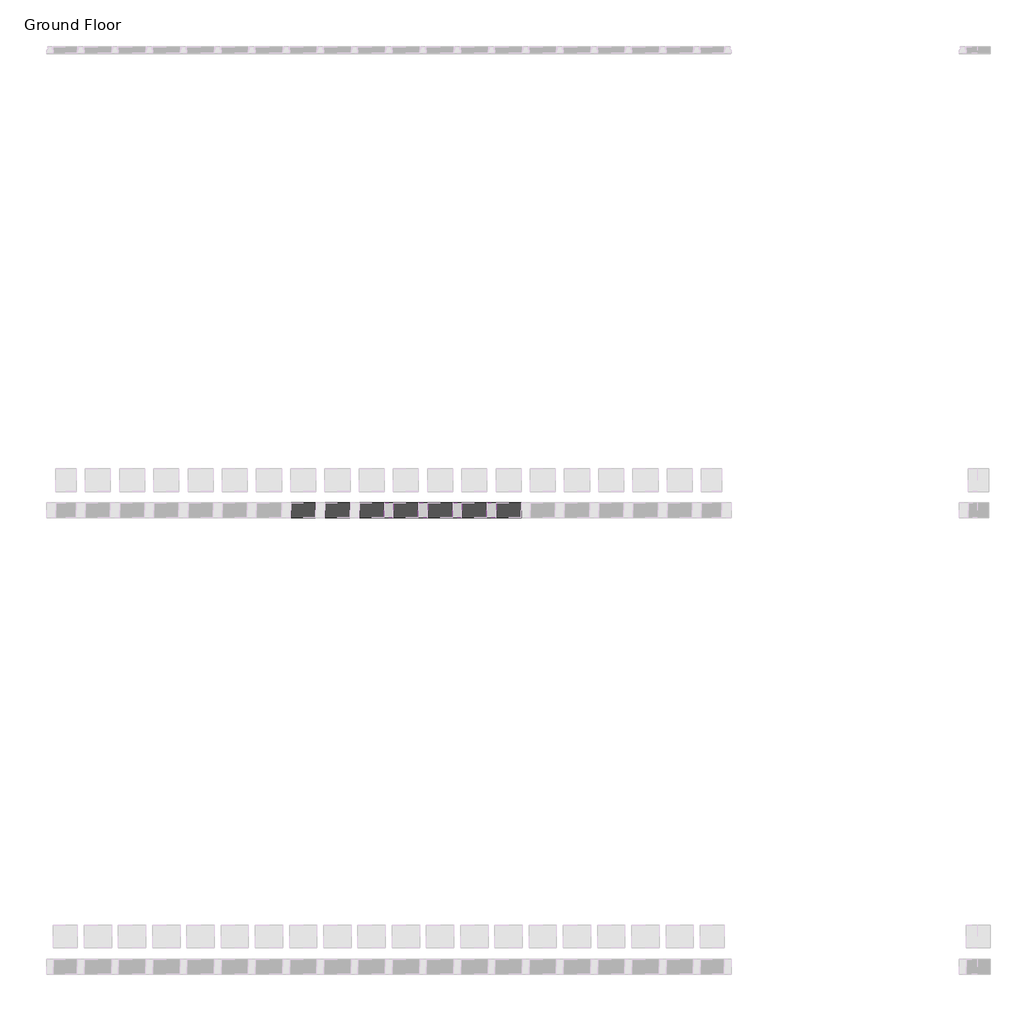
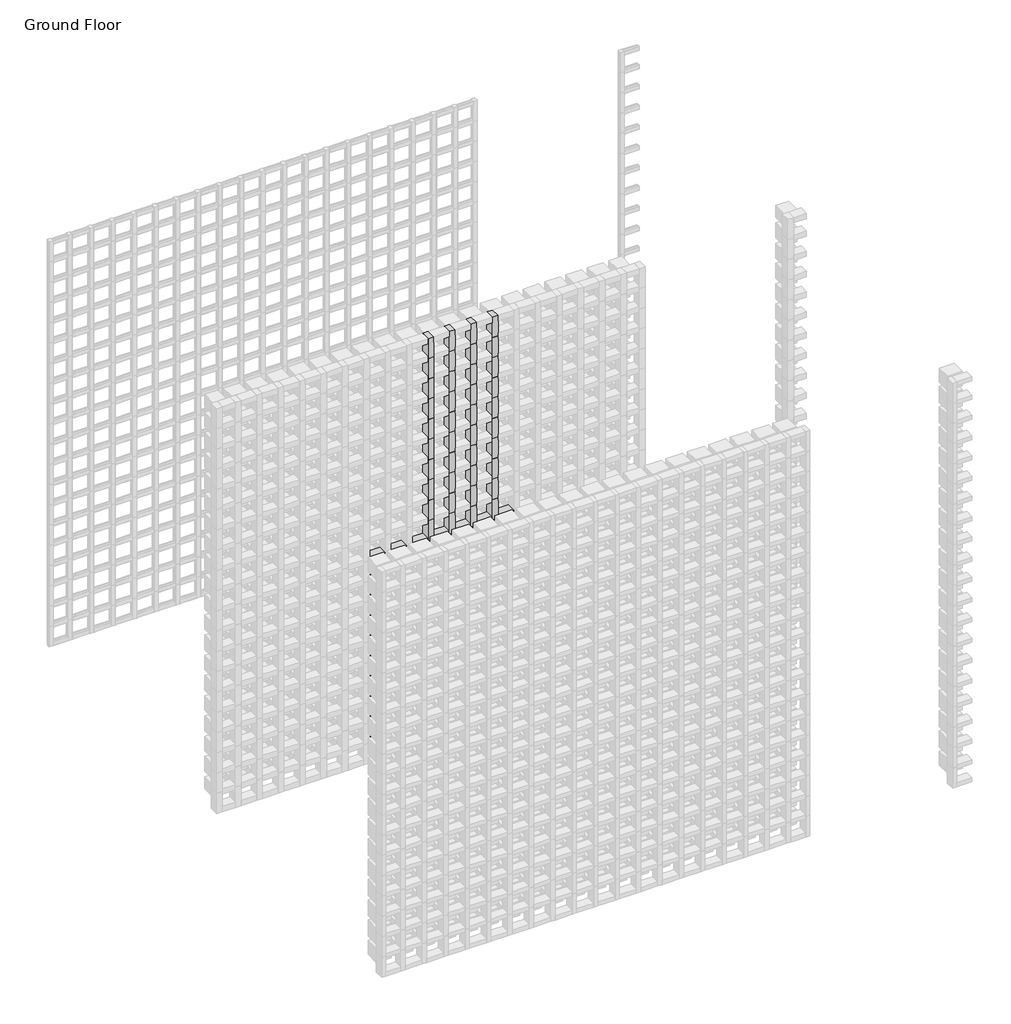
# One storey, part 84 of 350: 145 members.
"""IFC4 building model written with IfcOpenShell, lengths in millimetres."""

from ifc_helpers import new_model, si_unit, origin, place, context, project, spatial, transform, mapped, element, save
from components import rectangular_mullion_655930e9, rectangular_mullion_97e353d0

model = new_model("IFC4")

# Units and contexts
model_context = context("Model", 3, world=origin())
ifc_project = project(units=[si_unit("LENGTHUNIT", "METRE", prefix="MILLI")], contexts=[model_context])

# Site, building, storey
site = spatial("IfcSite", under=ifc_project)
building = spatial("IfcBuilding", under=site)
storey = spatial("IfcBuildingStorey", under=building, Name="Ground Floor", Elevation=0.0)

# Members
placement = place(None, origin())
rectangular_mullion_shape = rectangular_mullion_655930e9(model_context)
element("IfcMember", 1, ObjectType="Rectangular Mullion : Batten_Timber_Modinex_Austratus_Grid_Fascia_40x65_AlaskanYellowCedar", at=placement, inside=storey, context=model_context, shape_type="MappedRepresentation", body=[
    mapped(rectangular_mullion_shape, transform((3416.4361642, 40968.2978302, 300.0), x_axis=(1.0, 0.0, 0.0), y_axis=(0.0, -1.0, 0.0), z_axis=(0.0, 0.0, -1.0))),
])
element("IfcMember", 2, ObjectType="Rectangular Mullion : Batten_Timber_Modinex_Austratus_Grid_Fascia_40x65_AlaskanYellowCedar", at=placement, inside=storey, context=model_context, shape_type="MappedRepresentation", body=[
    mapped(rectangular_mullion_shape, transform((3416.4361642, 40968.2978302, 450.0), x_axis=(1.0, 0.0, 0.0), y_axis=(0.0, -1.0, 0.0), z_axis=(0.0, 0.0, -1.0))),
])
element("IfcMember", 3, ObjectType="Rectangular Mullion : Batten_Timber_Modinex_Austratus_Grid_Fascia_40x65_AlaskanYellowCedar", at=placement, inside=storey, context=model_context, shape_type="MappedRepresentation", body=[
    mapped(rectangular_mullion_shape, transform((3416.4361642, 40968.2978302, 600.0), x_axis=(1.0, 0.0, 0.0), y_axis=(0.0, -1.0, 0.0), z_axis=(0.0, 0.0, -1.0))),
])
element("IfcMember", 4, ObjectType="Rectangular Mullion : Batten_Timber_Modinex_Austratus_Grid_Fascia_40x65_AlaskanYellowCedar", at=placement, inside=storey, context=model_context, shape_type="MappedRepresentation", body=[
    mapped(rectangular_mullion_shape, transform((3416.4361642, 40968.2978302, 750.0), x_axis=(1.0, 0.0, 0.0), y_axis=(0.0, -1.0, 0.0), z_axis=(0.0, 0.0, -1.0))),
])
element("IfcMember", 5, ObjectType="Rectangular Mullion : Batten_Timber_Modinex_Austratus_Grid_Fascia_40x65_AlaskanYellowCedar", at=placement, inside=storey, context=model_context, shape_type="MappedRepresentation", body=[
    mapped(rectangular_mullion_shape, transform((3416.4361642, 40968.2978302, 900.0), x_axis=(1.0, 0.0, 0.0), y_axis=(0.0, -1.0, 0.0), z_axis=(0.0, 0.0, -1.0))),
])
element("IfcMember", 6, ObjectType="Rectangular Mullion : Batten_Timber_Modinex_Austratus_Grid_Fascia_40x65_AlaskanYellowCedar", at=placement, inside=storey, context=model_context, shape_type="MappedRepresentation", body=[
    mapped(rectangular_mullion_shape, transform((3416.4361642, 40968.2978302, 1050.0), x_axis=(1.0, 0.0, 0.0), y_axis=(0.0, -1.0, 0.0), z_axis=(0.0, 0.0, -1.0))),
])
element("IfcMember", 7, ObjectType="Rectangular Mullion : Batten_Timber_Modinex_Austratus_Grid_Fascia_40x65_AlaskanYellowCedar", at=placement, inside=storey, context=model_context, shape_type="MappedRepresentation", body=[
    mapped(rectangular_mullion_shape, transform((3416.4361642, 40968.2978302, 1200.0), x_axis=(1.0, 0.0, 0.0), y_axis=(0.0, -1.0, 0.0), z_axis=(0.0, 0.0, -1.0))),
])
element("IfcMember", 8, ObjectType="Rectangular Mullion : Batten_Timber_Modinex_Austratus_Grid_Fascia_40x65_AlaskanYellowCedar", at=placement, inside=storey, context=model_context, shape_type="MappedRepresentation", body=[
    mapped(rectangular_mullion_shape, transform((3416.4361642, 40968.2978302, 1350.0), x_axis=(1.0, 0.0, 0.0), y_axis=(0.0, -1.0, 0.0), z_axis=(0.0, 0.0, -1.0))),
])
element("IfcMember", 9, ObjectType="Rectangular Mullion : Batten_Timber_Modinex_Austratus_Grid_Fascia_40x65_AlaskanYellowCedar", at=placement, inside=storey, context=model_context, shape_type="MappedRepresentation", body=[
    mapped(rectangular_mullion_shape, transform((3416.4361642, 40968.2978302, 1500.0), x_axis=(1.0, 0.0, 0.0), y_axis=(0.0, -1.0, 0.0), z_axis=(0.0, 0.0, -1.0))),
])
element("IfcMember", 10, ObjectType="Rectangular Mullion : Batten_Timber_Modinex_Austratus_Grid_Fascia_40x65_AlaskanYellowCedar", at=placement, inside=storey, context=model_context, shape_type="MappedRepresentation", body=[
    mapped(rectangular_mullion_shape, transform((3416.4361642, 40968.2978302, 1650.0), x_axis=(1.0, 0.0, 0.0), y_axis=(0.0, -1.0, 0.0), z_axis=(0.0, 0.0, -1.0))),
])
element("IfcMember", 11, ObjectType="Rectangular Mullion : Batten_Timber_Modinex_Austratus_Grid_Fascia_40x65_AlaskanYellowCedar", at=placement, inside=storey, context=model_context, shape_type="MappedRepresentation", body=[
    mapped(rectangular_mullion_shape, transform((3416.4361642, 40968.2978302, 1800.0), x_axis=(1.0, 0.0, 0.0), y_axis=(0.0, -1.0, 0.0), z_axis=(0.0, 0.0, -1.0))),
])
element("IfcMember", 12, ObjectType="Rectangular Mullion : Batten_Timber_Modinex_Austratus_Grid_Fascia_40x65_AlaskanYellowCedar", at=placement, inside=storey, context=model_context, shape_type="MappedRepresentation", body=[
    mapped(rectangular_mullion_shape, transform((3416.4361642, 40968.2978302, 1950.0), x_axis=(1.0, 0.0, 0.0), y_axis=(0.0, -1.0, 0.0), z_axis=(0.0, 0.0, -1.0))),
])
element("IfcMember", 13, ObjectType="Rectangular Mullion : Batten_Timber_Modinex_Austratus_Grid_Fascia_40x65_AlaskanYellowCedar", at=placement, inside=storey, context=model_context, shape_type="MappedRepresentation", body=[
    mapped(rectangular_mullion_shape, transform((3416.4361642, 40968.2978302, 2100.0), x_axis=(1.0, 0.0, 0.0), y_axis=(0.0, -1.0, 0.0), z_axis=(0.0, 0.0, -1.0))),
])
element("IfcMember", 14, ObjectType="Rectangular Mullion : Batten_Timber_Modinex_Austratus_Grid_Fascia_40x65_AlaskanYellowCedar", at=placement, inside=storey, context=model_context, shape_type="MappedRepresentation", body=[
    mapped(rectangular_mullion_shape, transform((3416.4361642, 40968.2978302, 2250.0), x_axis=(1.0, 0.0, 0.0), y_axis=(0.0, -1.0, 0.0), z_axis=(0.0, 0.0, -1.0))),
])
element("IfcMember", 15, ObjectType="Rectangular Mullion : Batten_Timber_Modinex_Austratus_Grid_Fascia_40x65_AlaskanYellowCedar", at=placement, inside=storey, context=model_context, shape_type="MappedRepresentation", body=[
    mapped(rectangular_mullion_shape, transform((3416.4361642, 40968.2978302, 2400.0), x_axis=(1.0, 0.0, 0.0), y_axis=(0.0, -1.0, 0.0), z_axis=(0.0, 0.0, -1.0))),
])
element("IfcMember", 16, ObjectType="Rectangular Mullion : Batten_Timber_Modinex_Austratus_Grid_Fascia_40x65_AlaskanYellowCedar", at=placement, inside=storey, context=model_context, shape_type="MappedRepresentation", body=[
    mapped(rectangular_mullion_shape, transform((3416.4361642, 40968.2978302, 2550.0), x_axis=(1.0, 0.0, 0.0), y_axis=(0.0, -1.0, 0.0), z_axis=(0.0, 0.0, -1.0))),
])
element("IfcMember", 17, ObjectType="Rectangular Mullion : Batten_Timber_Modinex_Austratus_Grid_Fascia_40x65_AlaskanYellowCedar", at=placement, inside=storey, context=model_context, shape_type="MappedRepresentation", body=[
    mapped(rectangular_mullion_shape, transform((3416.4361642, 40968.2978302, 2700.0), x_axis=(1.0, 0.0, 0.0), y_axis=(0.0, -1.0, 0.0), z_axis=(0.0, 0.0, -1.0))),
])
element("IfcMember", 18, ObjectType="Rectangular Mullion : Batten_Timber_Modinex_Austratus_Grid_Fascia_40x65_AlaskanYellowCedar", at=placement, inside=storey, context=model_context, shape_type="MappedRepresentation", body=[
    mapped(rectangular_mullion_shape, transform((3566.4361642, 40968.2978302, 150.0), x_axis=(1.0, 0.0, 0.0), y_axis=(0.0, -1.0, 0.0), z_axis=(0.0, 0.0, -1.0))),
])
element("IfcMember", 19, ObjectType="Rectangular Mullion : Batten_Timber_Modinex_Austratus_Grid_Fascia_40x65_AlaskanYellowCedar", at=placement, inside=storey, context=model_context, shape_type="MappedRepresentation", body=[
    mapped(rectangular_mullion_shape, transform((3566.4361642, 40968.2978302, 300.0), x_axis=(1.0, 0.0, 0.0), y_axis=(0.0, -1.0, 0.0), z_axis=(0.0, 0.0, -1.0))),
])
element("IfcMember", 20, ObjectType="Rectangular Mullion : Batten_Timber_Modinex_Austratus_Grid_Fascia_40x65_AlaskanYellowCedar", at=placement, inside=storey, context=model_context, shape_type="MappedRepresentation", body=[
    mapped(rectangular_mullion_shape, transform((3566.4361642, 40968.2978302, 450.0), x_axis=(1.0, 0.0, 0.0), y_axis=(0.0, -1.0, 0.0), z_axis=(0.0, 0.0, -1.0))),
])
element("IfcMember", 21, ObjectType="Rectangular Mullion : Batten_Timber_Modinex_Austratus_Grid_Fascia_40x65_AlaskanYellowCedar", at=placement, inside=storey, context=model_context, shape_type="MappedRepresentation", body=[
    mapped(rectangular_mullion_shape, transform((3566.4361642, 40968.2978302, 600.0), x_axis=(1.0, 0.0, 0.0), y_axis=(0.0, -1.0, 0.0), z_axis=(0.0, 0.0, -1.0))),
])
element("IfcMember", 22, ObjectType="Rectangular Mullion : Batten_Timber_Modinex_Austratus_Grid_Fascia_40x65_AlaskanYellowCedar", at=placement, inside=storey, context=model_context, shape_type="MappedRepresentation", body=[
    mapped(rectangular_mullion_shape, transform((3566.4361642, 40968.2978302, 750.0), x_axis=(1.0, 0.0, 0.0), y_axis=(0.0, -1.0, 0.0), z_axis=(0.0, 0.0, -1.0))),
])
element("IfcMember", 23, ObjectType="Rectangular Mullion : Batten_Timber_Modinex_Austratus_Grid_Fascia_40x65_AlaskanYellowCedar", at=placement, inside=storey, context=model_context, shape_type="MappedRepresentation", body=[
    mapped(rectangular_mullion_shape, transform((3566.4361642, 40968.2978302, 900.0), x_axis=(1.0, 0.0, 0.0), y_axis=(0.0, -1.0, 0.0), z_axis=(0.0, 0.0, -1.0))),
])
element("IfcMember", 24, ObjectType="Rectangular Mullion : Batten_Timber_Modinex_Austratus_Grid_Fascia_40x65_AlaskanYellowCedar", at=placement, inside=storey, context=model_context, shape_type="MappedRepresentation", body=[
    mapped(rectangular_mullion_shape, transform((3566.4361642, 40968.2978302, 1050.0), x_axis=(1.0, 0.0, 0.0), y_axis=(0.0, -1.0, 0.0), z_axis=(0.0, 0.0, -1.0))),
])
element("IfcMember", 25, ObjectType="Rectangular Mullion : Batten_Timber_Modinex_Austratus_Grid_Fascia_40x65_AlaskanYellowCedar", at=placement, inside=storey, context=model_context, shape_type="MappedRepresentation", body=[
    mapped(rectangular_mullion_shape, transform((3566.4361642, 40968.2978302, 1200.0), x_axis=(1.0, 0.0, 0.0), y_axis=(0.0, -1.0, 0.0), z_axis=(0.0, 0.0, -1.0))),
])
element("IfcMember", 26, ObjectType="Rectangular Mullion : Batten_Timber_Modinex_Austratus_Grid_Fascia_40x65_AlaskanYellowCedar", at=placement, inside=storey, context=model_context, shape_type="MappedRepresentation", body=[
    mapped(rectangular_mullion_shape, transform((3566.4361642, 40968.2978302, 1350.0), x_axis=(1.0, 0.0, 0.0), y_axis=(0.0, -1.0, 0.0), z_axis=(0.0, 0.0, -1.0))),
])
element("IfcMember", 27, ObjectType="Rectangular Mullion : Batten_Timber_Modinex_Austratus_Grid_Fascia_40x65_AlaskanYellowCedar", at=placement, inside=storey, context=model_context, shape_type="MappedRepresentation", body=[
    mapped(rectangular_mullion_shape, transform((3566.4361642, 40968.2978302, 1500.0), x_axis=(1.0, 0.0, 0.0), y_axis=(0.0, -1.0, 0.0), z_axis=(0.0, 0.0, -1.0))),
])
element("IfcMember", 28, ObjectType="Rectangular Mullion : Batten_Timber_Modinex_Austratus_Grid_Fascia_40x65_AlaskanYellowCedar", at=placement, inside=storey, context=model_context, shape_type="MappedRepresentation", body=[
    mapped(rectangular_mullion_shape, transform((3566.4361642, 40968.2978302, 1650.0), x_axis=(1.0, 0.0, 0.0), y_axis=(0.0, -1.0, 0.0), z_axis=(0.0, 0.0, -1.0))),
])
element("IfcMember", 29, ObjectType="Rectangular Mullion : Batten_Timber_Modinex_Austratus_Grid_Fascia_40x65_AlaskanYellowCedar", at=placement, inside=storey, context=model_context, shape_type="MappedRepresentation", body=[
    mapped(rectangular_mullion_shape, transform((3566.4361642, 40968.2978302, 1800.0), x_axis=(1.0, 0.0, 0.0), y_axis=(0.0, -1.0, 0.0), z_axis=(0.0, 0.0, -1.0))),
])
element("IfcMember", 30, ObjectType="Rectangular Mullion : Batten_Timber_Modinex_Austratus_Grid_Fascia_40x65_AlaskanYellowCedar", at=placement, inside=storey, context=model_context, shape_type="MappedRepresentation", body=[
    mapped(rectangular_mullion_shape, transform((3566.4361642, 40968.2978302, 1950.0), x_axis=(1.0, 0.0, 0.0), y_axis=(0.0, -1.0, 0.0), z_axis=(0.0, 0.0, -1.0))),
])
element("IfcMember", 31, ObjectType="Rectangular Mullion : Batten_Timber_Modinex_Austratus_Grid_Fascia_40x65_AlaskanYellowCedar", at=placement, inside=storey, context=model_context, shape_type="MappedRepresentation", body=[
    mapped(rectangular_mullion_shape, transform((3566.4361642, 40968.2978302, 2100.0), x_axis=(1.0, 0.0, 0.0), y_axis=(0.0, -1.0, 0.0), z_axis=(0.0, 0.0, -1.0))),
])
element("IfcMember", 32, ObjectType="Rectangular Mullion : Batten_Timber_Modinex_Austratus_Grid_Fascia_40x65_AlaskanYellowCedar", at=placement, inside=storey, context=model_context, shape_type="MappedRepresentation", body=[
    mapped(rectangular_mullion_shape, transform((3566.4361642, 40968.2978302, 2250.0), x_axis=(1.0, 0.0, 0.0), y_axis=(0.0, -1.0, 0.0), z_axis=(0.0, 0.0, -1.0))),
])
element("IfcMember", 33, ObjectType="Rectangular Mullion : Batten_Timber_Modinex_Austratus_Grid_Fascia_40x65_AlaskanYellowCedar", at=placement, inside=storey, context=model_context, shape_type="MappedRepresentation", body=[
    mapped(rectangular_mullion_shape, transform((3566.4361642, 40968.2978302, 2400.0), x_axis=(1.0, 0.0, 0.0), y_axis=(0.0, -1.0, 0.0), z_axis=(0.0, 0.0, -1.0))),
])
element("IfcMember", 34, ObjectType="Rectangular Mullion : Batten_Timber_Modinex_Austratus_Grid_Fascia_40x65_AlaskanYellowCedar", at=placement, inside=storey, context=model_context, shape_type="MappedRepresentation", body=[
    mapped(rectangular_mullion_shape, transform((3566.4361642, 40968.2978302, 2550.0), x_axis=(1.0, 0.0, 0.0), y_axis=(0.0, -1.0, 0.0), z_axis=(0.0, 0.0, -1.0))),
])
element("IfcMember", 35, ObjectType="Rectangular Mullion : Batten_Timber_Modinex_Austratus_Grid_Fascia_40x65_AlaskanYellowCedar", at=placement, inside=storey, context=model_context, shape_type="MappedRepresentation", body=[
    mapped(rectangular_mullion_shape, transform((3566.4361642, 40968.2978302, 2700.0), x_axis=(1.0, 0.0, 0.0), y_axis=(0.0, -1.0, 0.0), z_axis=(0.0, 0.0, -1.0))),
])
element("IfcMember", 36, ObjectType="Rectangular Mullion : Batten_Timber_Modinex_Austratus_Grid_Fascia_40x65_AlaskanYellowCedar", at=placement, inside=storey, context=model_context, shape_type="MappedRepresentation", body=[
    mapped(rectangular_mullion_shape, transform((3716.4361642, 40968.2978302, 150.0), x_axis=(1.0, 0.0, 0.0), y_axis=(0.0, -1.0, 0.0), z_axis=(0.0, 0.0, -1.0))),
])
element("IfcMember", 37, ObjectType="Rectangular Mullion : Batten_Timber_Modinex_Austratus_Grid_Fascia_40x65_AlaskanYellowCedar", at=placement, inside=storey, context=model_context, shape_type="MappedRepresentation", body=[
    mapped(rectangular_mullion_shape, transform((3716.4361642, 40968.2978302, 300.0), x_axis=(1.0, 0.0, 0.0), y_axis=(0.0, -1.0, 0.0), z_axis=(0.0, 0.0, -1.0))),
])
element("IfcMember", 38, ObjectType="Rectangular Mullion : Batten_Timber_Modinex_Austratus_Grid_Fascia_40x65_AlaskanYellowCedar", at=placement, inside=storey, context=model_context, shape_type="MappedRepresentation", body=[
    mapped(rectangular_mullion_shape, transform((3716.4361642, 40968.2978302, 450.0), x_axis=(1.0, 0.0, 0.0), y_axis=(0.0, -1.0, 0.0), z_axis=(0.0, 0.0, -1.0))),
])
element("IfcMember", 39, ObjectType="Rectangular Mullion : Batten_Timber_Modinex_Austratus_Grid_Fascia_40x65_AlaskanYellowCedar", at=placement, inside=storey, context=model_context, shape_type="MappedRepresentation", body=[
    mapped(rectangular_mullion_shape, transform((3716.4361642, 40968.2978302, 600.0), x_axis=(1.0, 0.0, 0.0), y_axis=(0.0, -1.0, 0.0), z_axis=(0.0, 0.0, -1.0))),
])
element("IfcMember", 40, ObjectType="Rectangular Mullion : Batten_Timber_Modinex_Austratus_Grid_Fascia_40x65_AlaskanYellowCedar", at=placement, inside=storey, context=model_context, shape_type="MappedRepresentation", body=[
    mapped(rectangular_mullion_shape, transform((3716.4361642, 40968.2978302, 750.0), x_axis=(1.0, 0.0, 0.0), y_axis=(0.0, -1.0, 0.0), z_axis=(0.0, 0.0, -1.0))),
])
element("IfcMember", 41, ObjectType="Rectangular Mullion : Batten_Timber_Modinex_Austratus_Grid_Fascia_40x65_AlaskanYellowCedar", at=placement, inside=storey, context=model_context, shape_type="MappedRepresentation", body=[
    mapped(rectangular_mullion_shape, transform((3716.4361642, 40968.2978302, 900.0), x_axis=(1.0, 0.0, 0.0), y_axis=(0.0, -1.0, 0.0), z_axis=(0.0, 0.0, -1.0))),
])
element("IfcMember", 42, ObjectType="Rectangular Mullion : Batten_Timber_Modinex_Austratus_Grid_Fascia_40x65_AlaskanYellowCedar", at=placement, inside=storey, context=model_context, shape_type="MappedRepresentation", body=[
    mapped(rectangular_mullion_shape, transform((3716.4361642, 40968.2978302, 1050.0), x_axis=(1.0, 0.0, 0.0), y_axis=(0.0, -1.0, 0.0), z_axis=(0.0, 0.0, -1.0))),
])
element("IfcMember", 43, ObjectType="Rectangular Mullion : Batten_Timber_Modinex_Austratus_Grid_Fascia_40x65_AlaskanYellowCedar", at=placement, inside=storey, context=model_context, shape_type="MappedRepresentation", body=[
    mapped(rectangular_mullion_shape, transform((3716.4361642, 40968.2978302, 1200.0), x_axis=(1.0, 0.0, 0.0), y_axis=(0.0, -1.0, 0.0), z_axis=(0.0, 0.0, -1.0))),
])
element("IfcMember", 44, ObjectType="Rectangular Mullion : Batten_Timber_Modinex_Austratus_Grid_Fascia_40x65_AlaskanYellowCedar", at=placement, inside=storey, context=model_context, shape_type="MappedRepresentation", body=[
    mapped(rectangular_mullion_shape, transform((3716.4361642, 40968.2978302, 1350.0), x_axis=(1.0, 0.0, 0.0), y_axis=(0.0, -1.0, 0.0), z_axis=(0.0, 0.0, -1.0))),
])
element("IfcMember", 45, ObjectType="Rectangular Mullion : Batten_Timber_Modinex_Austratus_Grid_Fascia_40x65_AlaskanYellowCedar", at=placement, inside=storey, context=model_context, shape_type="MappedRepresentation", body=[
    mapped(rectangular_mullion_shape, transform((3716.4361642, 40968.2978302, 1500.0), x_axis=(1.0, 0.0, 0.0), y_axis=(0.0, -1.0, 0.0), z_axis=(0.0, 0.0, -1.0))),
])
element("IfcMember", 46, ObjectType="Rectangular Mullion : Batten_Timber_Modinex_Austratus_Grid_Fascia_40x65_AlaskanYellowCedar", at=placement, inside=storey, context=model_context, shape_type="MappedRepresentation", body=[
    mapped(rectangular_mullion_shape, transform((3716.4361642, 40968.2978302, 1650.0), x_axis=(1.0, 0.0, 0.0), y_axis=(0.0, -1.0, 0.0), z_axis=(0.0, 0.0, -1.0))),
])
element("IfcMember", 47, ObjectType="Rectangular Mullion : Batten_Timber_Modinex_Austratus_Grid_Fascia_40x65_AlaskanYellowCedar", at=placement, inside=storey, context=model_context, shape_type="MappedRepresentation", body=[
    mapped(rectangular_mullion_shape, transform((3716.4361642, 40968.2978302, 1800.0), x_axis=(1.0, 0.0, 0.0), y_axis=(0.0, -1.0, 0.0), z_axis=(0.0, 0.0, -1.0))),
])
element("IfcMember", 48, ObjectType="Rectangular Mullion : Batten_Timber_Modinex_Austratus_Grid_Fascia_40x65_AlaskanYellowCedar", at=placement, inside=storey, context=model_context, shape_type="MappedRepresentation", body=[
    mapped(rectangular_mullion_shape, transform((3716.4361642, 40968.2978302, 1950.0), x_axis=(1.0, 0.0, 0.0), y_axis=(0.0, -1.0, 0.0), z_axis=(0.0, 0.0, -1.0))),
])
element("IfcMember", 49, ObjectType="Rectangular Mullion : Batten_Timber_Modinex_Austratus_Grid_Fascia_40x65_AlaskanYellowCedar", at=placement, inside=storey, context=model_context, shape_type="MappedRepresentation", body=[
    mapped(rectangular_mullion_shape, transform((3716.4361642, 40968.2978302, 2100.0), x_axis=(1.0, 0.0, 0.0), y_axis=(0.0, -1.0, 0.0), z_axis=(0.0, 0.0, -1.0))),
])
element("IfcMember", 50, ObjectType="Rectangular Mullion : Batten_Timber_Modinex_Austratus_Grid_Fascia_40x65_AlaskanYellowCedar", at=placement, inside=storey, context=model_context, shape_type="MappedRepresentation", body=[
    mapped(rectangular_mullion_shape, transform((3716.4361642, 40968.2978302, 2250.0), x_axis=(1.0, 0.0, 0.0), y_axis=(0.0, -1.0, 0.0), z_axis=(0.0, 0.0, -1.0))),
])
element("IfcMember", 51, ObjectType="Rectangular Mullion : Batten_Timber_Modinex_Austratus_Grid_Fascia_40x65_AlaskanYellowCedar", at=placement, inside=storey, context=model_context, shape_type="MappedRepresentation", body=[
    mapped(rectangular_mullion_shape, transform((3716.4361642, 40968.2978302, 2400.0), x_axis=(1.0, 0.0, 0.0), y_axis=(0.0, -1.0, 0.0), z_axis=(0.0, 0.0, -1.0))),
])
element("IfcMember", 52, ObjectType="Rectangular Mullion : Batten_Timber_Modinex_Austratus_Grid_Fascia_40x65_AlaskanYellowCedar", at=placement, inside=storey, context=model_context, shape_type="MappedRepresentation", body=[
    mapped(rectangular_mullion_shape, transform((3716.4361642, 40968.2978302, 2550.0), x_axis=(1.0, 0.0, 0.0), y_axis=(0.0, -1.0, 0.0), z_axis=(0.0, 0.0, -1.0))),
])
element("IfcMember", 53, ObjectType="Rectangular Mullion : Batten_Timber_Modinex_Austratus_Grid_Fascia_40x65_AlaskanYellowCedar", at=placement, inside=storey, context=model_context, shape_type="MappedRepresentation", body=[
    mapped(rectangular_mullion_shape, transform((3716.4361642, 40968.2978302, 2700.0), x_axis=(1.0, 0.0, 0.0), y_axis=(0.0, -1.0, 0.0), z_axis=(0.0, 0.0, -1.0))),
])
element("IfcMember", 54, ObjectType="Rectangular Mullion : Batten_Timber_Modinex_Austratus_Grid_Fascia_40x65_AlaskanYellowCedar", at=placement, inside=storey, context=model_context, shape_type="MappedRepresentation", body=[
    mapped(rectangular_mullion_shape, transform((3866.4361642, 40968.2978302, 150.0), x_axis=(1.0, 0.0, 0.0), y_axis=(0.0, -1.0, 0.0), z_axis=(0.0, 0.0, -1.0))),
])
element("IfcMember", 55, ObjectType="Rectangular Mullion : Batten_Timber_Modinex_Austratus_Grid_Fascia_40x65_AlaskanYellowCedar", at=placement, inside=storey, context=model_context, shape_type="MappedRepresentation", body=[
    mapped(rectangular_mullion_shape, transform((3866.4361642, 40968.2978302, 300.0), x_axis=(1.0, 0.0, 0.0), y_axis=(0.0, -1.0, 0.0), z_axis=(0.0, 0.0, -1.0))),
])
element("IfcMember", 56, ObjectType="Rectangular Mullion : Batten_Timber_Modinex_Austratus_Grid_Fascia_40x65_AlaskanYellowCedar", at=placement, inside=storey, context=model_context, shape_type="MappedRepresentation", body=[
    mapped(rectangular_mullion_shape, transform((3866.4361642, 40968.2978302, 450.0), x_axis=(1.0, 0.0, 0.0), y_axis=(0.0, -1.0, 0.0), z_axis=(0.0, 0.0, -1.0))),
])
element("IfcMember", 57, ObjectType="Rectangular Mullion : Batten_Timber_Modinex_Austratus_Grid_Fascia_40x65_AlaskanYellowCedar", at=placement, inside=storey, context=model_context, shape_type="MappedRepresentation", body=[
    mapped(rectangular_mullion_shape, transform((3866.4361642, 40968.2978302, 600.0), x_axis=(1.0, 0.0, 0.0), y_axis=(0.0, -1.0, 0.0), z_axis=(0.0, 0.0, -1.0))),
])
element("IfcMember", 58, ObjectType="Rectangular Mullion : Batten_Timber_Modinex_Austratus_Grid_Fascia_40x65_AlaskanYellowCedar", at=placement, inside=storey, context=model_context, shape_type="MappedRepresentation", body=[
    mapped(rectangular_mullion_shape, transform((3866.4361642, 40968.2978302, 750.0), x_axis=(1.0, 0.0, 0.0), y_axis=(0.0, -1.0, 0.0), z_axis=(0.0, 0.0, -1.0))),
])
element("IfcMember", 59, ObjectType="Rectangular Mullion : Batten_Timber_Modinex_Austratus_Grid_Fascia_40x65_AlaskanYellowCedar", at=placement, inside=storey, context=model_context, shape_type="MappedRepresentation", body=[
    mapped(rectangular_mullion_shape, transform((3866.4361642, 40968.2978302, 900.0), x_axis=(1.0, 0.0, 0.0), y_axis=(0.0, -1.0, 0.0), z_axis=(0.0, 0.0, -1.0))),
])
element("IfcMember", 60, ObjectType="Rectangular Mullion : Batten_Timber_Modinex_Austratus_Grid_Fascia_40x65_AlaskanYellowCedar", at=placement, inside=storey, context=model_context, shape_type="MappedRepresentation", body=[
    mapped(rectangular_mullion_shape, transform((3866.4361642, 40968.2978302, 1050.0), x_axis=(1.0, 0.0, 0.0), y_axis=(0.0, -1.0, 0.0), z_axis=(0.0, 0.0, -1.0))),
])
element("IfcMember", 61, ObjectType="Rectangular Mullion : Batten_Timber_Modinex_Austratus_Grid_Fascia_40x65_AlaskanYellowCedar", at=placement, inside=storey, context=model_context, shape_type="MappedRepresentation", body=[
    mapped(rectangular_mullion_shape, transform((3866.4361642, 40968.2978302, 1200.0), x_axis=(1.0, 0.0, 0.0), y_axis=(0.0, -1.0, 0.0), z_axis=(0.0, 0.0, -1.0))),
])
element("IfcMember", 62, ObjectType="Rectangular Mullion : Batten_Timber_Modinex_Austratus_Grid_Fascia_40x65_AlaskanYellowCedar", at=placement, inside=storey, context=model_context, shape_type="MappedRepresentation", body=[
    mapped(rectangular_mullion_shape, transform((3866.4361642, 40968.2978302, 1350.0), x_axis=(1.0, 0.0, 0.0), y_axis=(0.0, -1.0, 0.0), z_axis=(0.0, 0.0, -1.0))),
])
element("IfcMember", 63, ObjectType="Rectangular Mullion : Batten_Timber_Modinex_Austratus_Grid_Fascia_40x65_AlaskanYellowCedar", at=placement, inside=storey, context=model_context, shape_type="MappedRepresentation", body=[
    mapped(rectangular_mullion_shape, transform((3866.4361642, 40968.2978302, 1500.0), x_axis=(1.0, 0.0, 0.0), y_axis=(0.0, -1.0, 0.0), z_axis=(0.0, 0.0, -1.0))),
])
element("IfcMember", 64, ObjectType="Rectangular Mullion : Batten_Timber_Modinex_Austratus_Grid_Fascia_40x65_AlaskanYellowCedar", at=placement, inside=storey, context=model_context, shape_type="MappedRepresentation", body=[
    mapped(rectangular_mullion_shape, transform((3866.4361642, 40968.2978302, 1650.0), x_axis=(1.0, 0.0, 0.0), y_axis=(0.0, -1.0, 0.0), z_axis=(0.0, 0.0, -1.0))),
])
element("IfcMember", 65, ObjectType="Rectangular Mullion : Batten_Timber_Modinex_Austratus_Grid_Fascia_40x65_AlaskanYellowCedar", at=placement, inside=storey, context=model_context, shape_type="MappedRepresentation", body=[
    mapped(rectangular_mullion_shape, transform((3866.4361642, 40968.2978302, 1800.0), x_axis=(1.0, 0.0, 0.0), y_axis=(0.0, -1.0, 0.0), z_axis=(0.0, 0.0, -1.0))),
])
element("IfcMember", 66, ObjectType="Rectangular Mullion : Batten_Timber_Modinex_Austratus_Grid_Fascia_40x65_AlaskanYellowCedar", at=placement, inside=storey, context=model_context, shape_type="MappedRepresentation", body=[
    mapped(rectangular_mullion_shape, transform((3866.4361642, 40968.2978302, 1950.0), x_axis=(1.0, 0.0, 0.0), y_axis=(0.0, -1.0, 0.0), z_axis=(0.0, 0.0, -1.0))),
])
element("IfcMember", 67, ObjectType="Rectangular Mullion : Batten_Timber_Modinex_Austratus_Grid_Fascia_40x65_AlaskanYellowCedar", at=placement, inside=storey, context=model_context, shape_type="MappedRepresentation", body=[
    mapped(rectangular_mullion_shape, transform((3866.4361642, 40968.2978302, 2100.0), x_axis=(1.0, 0.0, 0.0), y_axis=(0.0, -1.0, 0.0), z_axis=(0.0, 0.0, -1.0))),
])
element("IfcMember", 68, ObjectType="Rectangular Mullion : Batten_Timber_Modinex_Austratus_Grid_Fascia_40x65_AlaskanYellowCedar", at=placement, inside=storey, context=model_context, shape_type="MappedRepresentation", body=[
    mapped(rectangular_mullion_shape, transform((3866.4361642, 40968.2978302, 2250.0), x_axis=(1.0, 0.0, 0.0), y_axis=(0.0, -1.0, 0.0), z_axis=(0.0, 0.0, -1.0))),
])
element("IfcMember", 69, ObjectType="Rectangular Mullion : Batten_Timber_Modinex_Austratus_Grid_Fascia_40x65_AlaskanYellowCedar", at=placement, inside=storey, context=model_context, shape_type="MappedRepresentation", body=[
    mapped(rectangular_mullion_shape, transform((3866.4361642, 40968.2978302, 2400.0), x_axis=(1.0, 0.0, 0.0), y_axis=(0.0, -1.0, 0.0), z_axis=(0.0, 0.0, -1.0))),
])
element("IfcMember", 70, ObjectType="Rectangular Mullion : Batten_Timber_Modinex_Austratus_Grid_Fascia_40x65_AlaskanYellowCedar", at=placement, inside=storey, context=model_context, shape_type="MappedRepresentation", body=[
    mapped(rectangular_mullion_shape, transform((3866.4361642, 40968.2978302, 2550.0), x_axis=(1.0, 0.0, 0.0), y_axis=(0.0, -1.0, 0.0), z_axis=(0.0, 0.0, -1.0))),
])
element("IfcMember", 71, ObjectType="Rectangular Mullion : Batten_Timber_Modinex_Austratus_Grid_Fascia_40x65_AlaskanYellowCedar", at=placement, inside=storey, context=model_context, shape_type="MappedRepresentation", body=[
    mapped(rectangular_mullion_shape, transform((3866.4361642, 40968.2978302, 2700.0), x_axis=(1.0, 0.0, 0.0), y_axis=(0.0, -1.0, 0.0), z_axis=(0.0, 0.0, -1.0))),
])
element("IfcMember", 72, ObjectType="Rectangular Mullion : Batten_Timber_Modinex_Austratus_Grid_Fascia_40x65_AlaskanYellowCedar", at=placement, inside=storey, context=model_context, shape_type="MappedRepresentation", body=[
    mapped(rectangular_mullion_shape, transform((3416.4361642, 40968.2978302, 2850.0), x_axis=(1.0, 0.0, 0.0), y_axis=(0.0, -1.0, 0.0), z_axis=(0.0, 0.0, -1.0))),
])
element("IfcMember", 73, ObjectType="Rectangular Mullion : Batten_Timber_Modinex_Austratus_Grid_Fascia_40x65_AlaskanYellowCedar", at=placement, inside=storey, context=model_context, shape_type="MappedRepresentation", body=[
    mapped(rectangular_mullion_shape, transform((3566.4361642, 40968.2978302, 2850.0), x_axis=(1.0, 0.0, 0.0), y_axis=(0.0, -1.0, 0.0), z_axis=(0.0, 0.0, -1.0))),
])
element("IfcMember", 74, ObjectType="Rectangular Mullion : Batten_Timber_Modinex_Austratus_Grid_Fascia_40x65_AlaskanYellowCedar", at=placement, inside=storey, context=model_context, shape_type="MappedRepresentation", body=[
    mapped(rectangular_mullion_shape, transform((3716.4361642, 40968.2978302, 2850.0), x_axis=(1.0, 0.0, 0.0), y_axis=(0.0, -1.0, 0.0), z_axis=(0.0, 0.0, -1.0))),
])
element("IfcMember", 75, ObjectType="Rectangular Mullion : Batten_Timber_Modinex_Austratus_Grid_Fascia_40x65_AlaskanYellowCedar", at=placement, inside=storey, context=model_context, shape_type="MappedRepresentation", body=[
    mapped(rectangular_mullion_shape, transform((3866.4361642, 40968.2978302, 2850.0), x_axis=(1.0, 0.0, 0.0), y_axis=(0.0, -1.0, 0.0), z_axis=(0.0, 0.0, -1.0))),
])
rectangular_mullion_2_shape = rectangular_mullion_97e353d0(model_context)
element("IfcMember", 76, ObjectType="Rectangular Mullion : Batten_Timber_Modinex_Austratus_Grid_Fascia_40x65_AlaskanYellowCedar", at=placement, inside=storey, context=model_context, shape_type="MappedRepresentation", body=[
    mapped(rectangular_mullion_2_shape, transform((3096.4361642, 40968.2978302, 150.0), x_axis=(0.0, 0.0, 1.0), y_axis=(0.0, -1.0, 0.0), z_axis=(1.0, 0.0, 0.0))),
])
element("IfcMember", 77, ObjectType="Rectangular Mullion : Batten_Timber_Modinex_Austratus_Grid_Fascia_40x65_AlaskanYellowCedar", at=placement, inside=storey, context=model_context, shape_type="MappedRepresentation", body=[
    mapped(rectangular_mullion_2_shape, transform((3246.4361642, 40968.2978302, 150.0), x_axis=(0.0, 0.0, 1.0), y_axis=(0.0, -1.0, 0.0), z_axis=(1.0, 0.0, 0.0))),
])
element("IfcMember", 78, ObjectType="Rectangular Mullion : Batten_Timber_Modinex_Austratus_Grid_Fascia_40x65_AlaskanYellowCedar", at=placement, inside=storey, context=model_context, shape_type="MappedRepresentation", body=[
    mapped(rectangular_mullion_2_shape, transform((3396.4361642, 40968.2978302, 150.0), x_axis=(0.0, 0.0, 1.0), y_axis=(0.0, -1.0, 0.0), z_axis=(1.0, 0.0, 0.0))),
])
element("IfcMember", 79, ObjectType="Rectangular Mullion : Batten_Timber_Modinex_Austratus_Grid_Fascia_40x65_AlaskanYellowCedar", at=placement, inside=storey, context=model_context, shape_type="MappedRepresentation", body=[
    mapped(rectangular_mullion_2_shape, transform((3546.4361642, 40968.2978302, 150.0), x_axis=(0.0, 0.0, 1.0), y_axis=(0.0, -1.0, 0.0), z_axis=(1.0, 0.0, 0.0))),
])
element("IfcMember", 80, ObjectType="Rectangular Mullion : Batten_Timber_Modinex_Austratus_Grid_Fascia_40x65_AlaskanYellowCedar", at=placement, inside=storey, context=model_context, shape_type="MappedRepresentation", body=[
    mapped(rectangular_mullion_2_shape, transform((3696.4361642, 40968.2978302, 150.0), x_axis=(0.0, 0.0, 1.0), y_axis=(0.0, -1.0, 0.0), z_axis=(1.0, 0.0, 0.0))),
])
element("IfcMember", 81, ObjectType="Rectangular Mullion : Batten_Timber_Modinex_Austratus_Grid_Fascia_40x65_AlaskanYellowCedar", at=placement, inside=storey, context=model_context, shape_type="MappedRepresentation", body=[
    mapped(rectangular_mullion_2_shape, transform((3846.4361642, 40968.2978302, 150.0), x_axis=(0.0, 0.0, 1.0), y_axis=(0.0, -1.0, 0.0), z_axis=(1.0, 0.0, 0.0))),
])
element("IfcMember", 82, ObjectType="Rectangular Mullion : Batten_Timber_Modinex_Austratus_Grid_Fascia_40x65_AlaskanYellowCedar", at=placement, inside=storey, context=model_context, shape_type="MappedRepresentation", body=[
    mapped(rectangular_mullion_2_shape, transform((3996.4361642, 40968.2978302, 150.0), x_axis=(0.0, 0.0, 1.0), y_axis=(0.0, -1.0, 0.0), z_axis=(1.0, 0.0, 0.0))),
])
element("IfcMember", 83, ObjectType="Rectangular Mullion : Batten_Timber_Modinex_Austratus_Grid_Fascia_40x65_AlaskanYellowCedar", at=placement, inside=storey, context=model_context, shape_type="MappedRepresentation", body=[
    mapped(rectangular_mullion_2_shape, transform((3096.4361642, 40968.2978302, 300.0), x_axis=(0.0, 0.0, 1.0), y_axis=(0.0, -1.0, 0.0), z_axis=(1.0, 0.0, 0.0))),
])
element("IfcMember", 84, ObjectType="Rectangular Mullion : Batten_Timber_Modinex_Austratus_Grid_Fascia_40x65_AlaskanYellowCedar", at=placement, inside=storey, context=model_context, shape_type="MappedRepresentation", body=[
    mapped(rectangular_mullion_2_shape, transform((3246.4361642, 40968.2978302, 300.0), x_axis=(0.0, 0.0, 1.0), y_axis=(0.0, -1.0, 0.0), z_axis=(1.0, 0.0, 0.0))),
])
element("IfcMember", 85, ObjectType="Rectangular Mullion : Batten_Timber_Modinex_Austratus_Grid_Fascia_40x65_AlaskanYellowCedar", at=placement, inside=storey, context=model_context, shape_type="MappedRepresentation", body=[
    mapped(rectangular_mullion_2_shape, transform((3396.4361642, 40968.2978302, 300.0), x_axis=(0.0, 0.0, 1.0), y_axis=(0.0, -1.0, 0.0), z_axis=(1.0, 0.0, 0.0))),
])
element("IfcMember", 86, ObjectType="Rectangular Mullion : Batten_Timber_Modinex_Austratus_Grid_Fascia_40x65_AlaskanYellowCedar", at=placement, inside=storey, context=model_context, shape_type="MappedRepresentation", body=[
    mapped(rectangular_mullion_2_shape, transform((3546.4361642, 40968.2978302, 300.0), x_axis=(0.0, 0.0, 1.0), y_axis=(0.0, -1.0, 0.0), z_axis=(1.0, 0.0, 0.0))),
])
element("IfcMember", 87, ObjectType="Rectangular Mullion : Batten_Timber_Modinex_Austratus_Grid_Fascia_40x65_AlaskanYellowCedar", at=placement, inside=storey, context=model_context, shape_type="MappedRepresentation", body=[
    mapped(rectangular_mullion_2_shape, transform((3696.4361642, 40968.2978302, 300.0), x_axis=(0.0, 0.0, 1.0), y_axis=(0.0, -1.0, 0.0), z_axis=(1.0, 0.0, 0.0))),
])
element("IfcMember", 88, ObjectType="Rectangular Mullion : Batten_Timber_Modinex_Austratus_Grid_Fascia_40x65_AlaskanYellowCedar", at=placement, inside=storey, context=model_context, shape_type="MappedRepresentation", body=[
    mapped(rectangular_mullion_2_shape, transform((3846.4361642, 40968.2978302, 300.0), x_axis=(0.0, 0.0, 1.0), y_axis=(0.0, -1.0, 0.0), z_axis=(1.0, 0.0, 0.0))),
])
element("IfcMember", 89, ObjectType="Rectangular Mullion : Batten_Timber_Modinex_Austratus_Grid_Fascia_40x65_AlaskanYellowCedar", at=placement, inside=storey, context=model_context, shape_type="MappedRepresentation", body=[
    mapped(rectangular_mullion_2_shape, transform((3996.4361642, 40968.2978302, 300.0), x_axis=(0.0, 0.0, 1.0), y_axis=(0.0, -1.0, 0.0), z_axis=(1.0, 0.0, 0.0))),
])
element("IfcMember", 90, ObjectType="Rectangular Mullion : Batten_Timber_Modinex_Austratus_Grid_Fascia_40x65_AlaskanYellowCedar", at=placement, inside=storey, context=model_context, shape_type="MappedRepresentation", body=[
    mapped(rectangular_mullion_2_shape, transform((3096.4361642, 40968.2978302, 450.0), x_axis=(0.0, 0.0, 1.0), y_axis=(0.0, -1.0, 0.0), z_axis=(1.0, 0.0, 0.0))),
])
element("IfcMember", 91, ObjectType="Rectangular Mullion : Batten_Timber_Modinex_Austratus_Grid_Fascia_40x65_AlaskanYellowCedar", at=placement, inside=storey, context=model_context, shape_type="MappedRepresentation", body=[
    mapped(rectangular_mullion_2_shape, transform((3246.4361642, 40968.2978302, 450.0), x_axis=(0.0, 0.0, 1.0), y_axis=(0.0, -1.0, 0.0), z_axis=(1.0, 0.0, 0.0))),
])
element("IfcMember", 92, ObjectType="Rectangular Mullion : Batten_Timber_Modinex_Austratus_Grid_Fascia_40x65_AlaskanYellowCedar", at=placement, inside=storey, context=model_context, shape_type="MappedRepresentation", body=[
    mapped(rectangular_mullion_2_shape, transform((3396.4361642, 40968.2978302, 450.0), x_axis=(0.0, 0.0, 1.0), y_axis=(0.0, -1.0, 0.0), z_axis=(1.0, 0.0, 0.0))),
])
element("IfcMember", 93, ObjectType="Rectangular Mullion : Batten_Timber_Modinex_Austratus_Grid_Fascia_40x65_AlaskanYellowCedar", at=placement, inside=storey, context=model_context, shape_type="MappedRepresentation", body=[
    mapped(rectangular_mullion_2_shape, transform((3546.4361642, 40968.2978302, 450.0), x_axis=(0.0, 0.0, 1.0), y_axis=(0.0, -1.0, 0.0), z_axis=(1.0, 0.0, 0.0))),
])
element("IfcMember", 94, ObjectType="Rectangular Mullion : Batten_Timber_Modinex_Austratus_Grid_Fascia_40x65_AlaskanYellowCedar", at=placement, inside=storey, context=model_context, shape_type="MappedRepresentation", body=[
    mapped(rectangular_mullion_2_shape, transform((3696.4361642, 40968.2978302, 450.0), x_axis=(0.0, 0.0, 1.0), y_axis=(0.0, -1.0, 0.0), z_axis=(1.0, 0.0, 0.0))),
])
element("IfcMember", 95, ObjectType="Rectangular Mullion : Batten_Timber_Modinex_Austratus_Grid_Fascia_40x65_AlaskanYellowCedar", at=placement, inside=storey, context=model_context, shape_type="MappedRepresentation", body=[
    mapped(rectangular_mullion_2_shape, transform((3846.4361642, 40968.2978302, 450.0), x_axis=(0.0, 0.0, 1.0), y_axis=(0.0, -1.0, 0.0), z_axis=(1.0, 0.0, 0.0))),
])
element("IfcMember", 96, ObjectType="Rectangular Mullion : Batten_Timber_Modinex_Austratus_Grid_Fascia_40x65_AlaskanYellowCedar", at=placement, inside=storey, context=model_context, shape_type="MappedRepresentation", body=[
    mapped(rectangular_mullion_2_shape, transform((3996.4361642, 40968.2978302, 450.0), x_axis=(0.0, 0.0, 1.0), y_axis=(0.0, -1.0, 0.0), z_axis=(1.0, 0.0, 0.0))),
])
element("IfcMember", 97, ObjectType="Rectangular Mullion : Batten_Timber_Modinex_Austratus_Grid_Fascia_40x65_AlaskanYellowCedar", at=placement, inside=storey, context=model_context, shape_type="MappedRepresentation", body=[
    mapped(rectangular_mullion_2_shape, transform((3096.4361642, 40968.2978302, 600.0), x_axis=(0.0, 0.0, 1.0), y_axis=(0.0, -1.0, 0.0), z_axis=(1.0, 0.0, 0.0))),
])
element("IfcMember", 98, ObjectType="Rectangular Mullion : Batten_Timber_Modinex_Austratus_Grid_Fascia_40x65_AlaskanYellowCedar", at=placement, inside=storey, context=model_context, shape_type="MappedRepresentation", body=[
    mapped(rectangular_mullion_2_shape, transform((3246.4361642, 40968.2978302, 600.0), x_axis=(0.0, 0.0, 1.0), y_axis=(0.0, -1.0, 0.0), z_axis=(1.0, 0.0, 0.0))),
])
element("IfcMember", 99, ObjectType="Rectangular Mullion : Batten_Timber_Modinex_Austratus_Grid_Fascia_40x65_AlaskanYellowCedar", at=placement, inside=storey, context=model_context, shape_type="MappedRepresentation", body=[
    mapped(rectangular_mullion_2_shape, transform((3396.4361642, 40968.2978302, 600.0), x_axis=(0.0, 0.0, 1.0), y_axis=(0.0, -1.0, 0.0), z_axis=(1.0, 0.0, 0.0))),
])
element("IfcMember", 100, ObjectType="Rectangular Mullion : Batten_Timber_Modinex_Austratus_Grid_Fascia_40x65_AlaskanYellowCedar", at=placement, inside=storey, context=model_context, shape_type="MappedRepresentation", body=[
    mapped(rectangular_mullion_2_shape, transform((3546.4361642, 40968.2978302, 600.0), x_axis=(0.0, 0.0, 1.0), y_axis=(0.0, -1.0, 0.0), z_axis=(1.0, 0.0, 0.0))),
])
element("IfcMember", 101, ObjectType="Rectangular Mullion : Batten_Timber_Modinex_Austratus_Grid_Fascia_40x65_AlaskanYellowCedar", at=placement, inside=storey, context=model_context, shape_type="MappedRepresentation", body=[
    mapped(rectangular_mullion_2_shape, transform((3696.4361642, 40968.2978302, 600.0), x_axis=(0.0, 0.0, 1.0), y_axis=(0.0, -1.0, 0.0), z_axis=(1.0, 0.0, 0.0))),
])
element("IfcMember", 102, ObjectType="Rectangular Mullion : Batten_Timber_Modinex_Austratus_Grid_Fascia_40x65_AlaskanYellowCedar", at=placement, inside=storey, context=model_context, shape_type="MappedRepresentation", body=[
    mapped(rectangular_mullion_2_shape, transform((3846.4361642, 40968.2978302, 600.0), x_axis=(0.0, 0.0, 1.0), y_axis=(0.0, -1.0, 0.0), z_axis=(1.0, 0.0, 0.0))),
])
element("IfcMember", 103, ObjectType="Rectangular Mullion : Batten_Timber_Modinex_Austratus_Grid_Fascia_40x65_AlaskanYellowCedar", at=placement, inside=storey, context=model_context, shape_type="MappedRepresentation", body=[
    mapped(rectangular_mullion_2_shape, transform((3996.4361642, 40968.2978302, 600.0), x_axis=(0.0, 0.0, 1.0), y_axis=(0.0, -1.0, 0.0), z_axis=(1.0, 0.0, 0.0))),
])
element("IfcMember", 104, ObjectType="Rectangular Mullion : Batten_Timber_Modinex_Austratus_Grid_Fascia_40x65_AlaskanYellowCedar", at=placement, inside=storey, context=model_context, shape_type="MappedRepresentation", body=[
    mapped(rectangular_mullion_2_shape, transform((3096.4361642, 40968.2978302, 750.0), x_axis=(0.0, 0.0, 1.0), y_axis=(0.0, -1.0, 0.0), z_axis=(1.0, 0.0, 0.0))),
])
element("IfcMember", 105, ObjectType="Rectangular Mullion : Batten_Timber_Modinex_Austratus_Grid_Fascia_40x65_AlaskanYellowCedar", at=placement, inside=storey, context=model_context, shape_type="MappedRepresentation", body=[
    mapped(rectangular_mullion_2_shape, transform((3246.4361642, 40968.2978302, 750.0), x_axis=(0.0, 0.0, 1.0), y_axis=(0.0, -1.0, 0.0), z_axis=(1.0, 0.0, 0.0))),
])
element("IfcMember", 106, ObjectType="Rectangular Mullion : Batten_Timber_Modinex_Austratus_Grid_Fascia_40x65_AlaskanYellowCedar", at=placement, inside=storey, context=model_context, shape_type="MappedRepresentation", body=[
    mapped(rectangular_mullion_2_shape, transform((3396.4361642, 40968.2978302, 750.0), x_axis=(0.0, 0.0, 1.0), y_axis=(0.0, -1.0, 0.0), z_axis=(1.0, 0.0, 0.0))),
])
element("IfcMember", 107, ObjectType="Rectangular Mullion : Batten_Timber_Modinex_Austratus_Grid_Fascia_40x65_AlaskanYellowCedar", at=placement, inside=storey, context=model_context, shape_type="MappedRepresentation", body=[
    mapped(rectangular_mullion_2_shape, transform((3546.4361642, 40968.2978302, 750.0), x_axis=(0.0, 0.0, 1.0), y_axis=(0.0, -1.0, 0.0), z_axis=(1.0, 0.0, 0.0))),
])
element("IfcMember", 108, ObjectType="Rectangular Mullion : Batten_Timber_Modinex_Austratus_Grid_Fascia_40x65_AlaskanYellowCedar", at=placement, inside=storey, context=model_context, shape_type="MappedRepresentation", body=[
    mapped(rectangular_mullion_2_shape, transform((3696.4361642, 40968.2978302, 750.0), x_axis=(0.0, 0.0, 1.0), y_axis=(0.0, -1.0, 0.0), z_axis=(1.0, 0.0, 0.0))),
])
element("IfcMember", 109, ObjectType="Rectangular Mullion : Batten_Timber_Modinex_Austratus_Grid_Fascia_40x65_AlaskanYellowCedar", at=placement, inside=storey, context=model_context, shape_type="MappedRepresentation", body=[
    mapped(rectangular_mullion_2_shape, transform((3846.4361642, 40968.2978302, 750.0), x_axis=(0.0, 0.0, 1.0), y_axis=(0.0, -1.0, 0.0), z_axis=(1.0, 0.0, 0.0))),
])
element("IfcMember", 110, ObjectType="Rectangular Mullion : Batten_Timber_Modinex_Austratus_Grid_Fascia_40x65_AlaskanYellowCedar", at=placement, inside=storey, context=model_context, shape_type="MappedRepresentation", body=[
    mapped(rectangular_mullion_2_shape, transform((3996.4361642, 40968.2978302, 750.0), x_axis=(0.0, 0.0, 1.0), y_axis=(0.0, -1.0, 0.0), z_axis=(1.0, 0.0, 0.0))),
])
element("IfcMember", 111, ObjectType="Rectangular Mullion : Batten_Timber_Modinex_Austratus_Grid_Fascia_40x65_AlaskanYellowCedar", at=placement, inside=storey, context=model_context, shape_type="MappedRepresentation", body=[
    mapped(rectangular_mullion_2_shape, transform((3096.4361642, 40968.2978302, 900.0), x_axis=(0.0, 0.0, 1.0), y_axis=(0.0, -1.0, 0.0), z_axis=(1.0, 0.0, 0.0))),
])
element("IfcMember", 112, ObjectType="Rectangular Mullion : Batten_Timber_Modinex_Austratus_Grid_Fascia_40x65_AlaskanYellowCedar", at=placement, inside=storey, context=model_context, shape_type="MappedRepresentation", body=[
    mapped(rectangular_mullion_2_shape, transform((3246.4361642, 40968.2978302, 900.0), x_axis=(0.0, 0.0, 1.0), y_axis=(0.0, -1.0, 0.0), z_axis=(1.0, 0.0, 0.0))),
])
element("IfcMember", 113, ObjectType="Rectangular Mullion : Batten_Timber_Modinex_Austratus_Grid_Fascia_40x65_AlaskanYellowCedar", at=placement, inside=storey, context=model_context, shape_type="MappedRepresentation", body=[
    mapped(rectangular_mullion_2_shape, transform((3396.4361642, 40968.2978302, 900.0), x_axis=(0.0, 0.0, 1.0), y_axis=(0.0, -1.0, 0.0), z_axis=(1.0, 0.0, 0.0))),
])
element("IfcMember", 114, ObjectType="Rectangular Mullion : Batten_Timber_Modinex_Austratus_Grid_Fascia_40x65_AlaskanYellowCedar", at=placement, inside=storey, context=model_context, shape_type="MappedRepresentation", body=[
    mapped(rectangular_mullion_2_shape, transform((3546.4361642, 40968.2978302, 900.0), x_axis=(0.0, 0.0, 1.0), y_axis=(0.0, -1.0, 0.0), z_axis=(1.0, 0.0, 0.0))),
])
element("IfcMember", 115, ObjectType="Rectangular Mullion : Batten_Timber_Modinex_Austratus_Grid_Fascia_40x65_AlaskanYellowCedar", at=placement, inside=storey, context=model_context, shape_type="MappedRepresentation", body=[
    mapped(rectangular_mullion_2_shape, transform((3696.4361642, 40968.2978302, 900.0), x_axis=(0.0, 0.0, 1.0), y_axis=(0.0, -1.0, 0.0), z_axis=(1.0, 0.0, 0.0))),
])
element("IfcMember", 116, ObjectType="Rectangular Mullion : Batten_Timber_Modinex_Austratus_Grid_Fascia_40x65_AlaskanYellowCedar", at=placement, inside=storey, context=model_context, shape_type="MappedRepresentation", body=[
    mapped(rectangular_mullion_2_shape, transform((3846.4361642, 40968.2978302, 900.0), x_axis=(0.0, 0.0, 1.0), y_axis=(0.0, -1.0, 0.0), z_axis=(1.0, 0.0, 0.0))),
])
element("IfcMember", 117, ObjectType="Rectangular Mullion : Batten_Timber_Modinex_Austratus_Grid_Fascia_40x65_AlaskanYellowCedar", at=placement, inside=storey, context=model_context, shape_type="MappedRepresentation", body=[
    mapped(rectangular_mullion_2_shape, transform((3996.4361642, 40968.2978302, 900.0), x_axis=(0.0, 0.0, 1.0), y_axis=(0.0, -1.0, 0.0), z_axis=(1.0, 0.0, 0.0))),
])
element("IfcMember", 118, ObjectType="Rectangular Mullion : Batten_Timber_Modinex_Austratus_Grid_Fascia_40x65_AlaskanYellowCedar", at=placement, inside=storey, context=model_context, shape_type="MappedRepresentation", body=[
    mapped(rectangular_mullion_2_shape, transform((3096.4361642, 40968.2978302, 1050.0), x_axis=(0.0, 0.0, 1.0), y_axis=(0.0, -1.0, 0.0), z_axis=(1.0, 0.0, 0.0))),
])
element("IfcMember", 119, ObjectType="Rectangular Mullion : Batten_Timber_Modinex_Austratus_Grid_Fascia_40x65_AlaskanYellowCedar", at=placement, inside=storey, context=model_context, shape_type="MappedRepresentation", body=[
    mapped(rectangular_mullion_2_shape, transform((3246.4361642, 40968.2978302, 1050.0), x_axis=(0.0, 0.0, 1.0), y_axis=(0.0, -1.0, 0.0), z_axis=(1.0, 0.0, 0.0))),
])
element("IfcMember", 120, ObjectType="Rectangular Mullion : Batten_Timber_Modinex_Austratus_Grid_Fascia_40x65_AlaskanYellowCedar", at=placement, inside=storey, context=model_context, shape_type="MappedRepresentation", body=[
    mapped(rectangular_mullion_2_shape, transform((3396.4361642, 40968.2978302, 1050.0), x_axis=(0.0, 0.0, 1.0), y_axis=(0.0, -1.0, 0.0), z_axis=(1.0, 0.0, 0.0))),
])
element("IfcMember", 121, ObjectType="Rectangular Mullion : Batten_Timber_Modinex_Austratus_Grid_Fascia_40x65_AlaskanYellowCedar", at=placement, inside=storey, context=model_context, shape_type="MappedRepresentation", body=[
    mapped(rectangular_mullion_2_shape, transform((3546.4361642, 40968.2978302, 1050.0), x_axis=(0.0, 0.0, 1.0), y_axis=(0.0, -1.0, 0.0), z_axis=(1.0, 0.0, 0.0))),
])
element("IfcMember", 122, ObjectType="Rectangular Mullion : Batten_Timber_Modinex_Austratus_Grid_Fascia_40x65_AlaskanYellowCedar", at=placement, inside=storey, context=model_context, shape_type="MappedRepresentation", body=[
    mapped(rectangular_mullion_2_shape, transform((3696.4361642, 40968.2978302, 1050.0), x_axis=(0.0, 0.0, 1.0), y_axis=(0.0, -1.0, 0.0), z_axis=(1.0, 0.0, 0.0))),
])
element("IfcMember", 123, ObjectType="Rectangular Mullion : Batten_Timber_Modinex_Austratus_Grid_Fascia_40x65_AlaskanYellowCedar", at=placement, inside=storey, context=model_context, shape_type="MappedRepresentation", body=[
    mapped(rectangular_mullion_2_shape, transform((3846.4361642, 40968.2978302, 1050.0), x_axis=(0.0, 0.0, 1.0), y_axis=(0.0, -1.0, 0.0), z_axis=(1.0, 0.0, 0.0))),
])
element("IfcMember", 124, ObjectType="Rectangular Mullion : Batten_Timber_Modinex_Austratus_Grid_Fascia_40x65_AlaskanYellowCedar", at=placement, inside=storey, context=model_context, shape_type="MappedRepresentation", body=[
    mapped(rectangular_mullion_2_shape, transform((3996.4361642, 40968.2978302, 1050.0), x_axis=(0.0, 0.0, 1.0), y_axis=(0.0, -1.0, 0.0), z_axis=(1.0, 0.0, 0.0))),
])
element("IfcMember", 125, ObjectType="Rectangular Mullion : Batten_Timber_Modinex_Austratus_Grid_Fascia_40x65_AlaskanYellowCedar", at=placement, inside=storey, context=model_context, shape_type="MappedRepresentation", body=[
    mapped(rectangular_mullion_2_shape, transform((3096.4361642, 40968.2978302, 1200.0), x_axis=(0.0, 0.0, 1.0), y_axis=(0.0, -1.0, 0.0), z_axis=(1.0, 0.0, 0.0))),
])
element("IfcMember", 126, ObjectType="Rectangular Mullion : Batten_Timber_Modinex_Austratus_Grid_Fascia_40x65_AlaskanYellowCedar", at=placement, inside=storey, context=model_context, shape_type="MappedRepresentation", body=[
    mapped(rectangular_mullion_2_shape, transform((3246.4361642, 40968.2978302, 1200.0), x_axis=(0.0, 0.0, 1.0), y_axis=(0.0, -1.0, 0.0), z_axis=(1.0, 0.0, 0.0))),
])
element("IfcMember", 127, ObjectType="Rectangular Mullion : Batten_Timber_Modinex_Austratus_Grid_Fascia_40x65_AlaskanYellowCedar", at=placement, inside=storey, context=model_context, shape_type="MappedRepresentation", body=[
    mapped(rectangular_mullion_2_shape, transform((3396.4361642, 40968.2978302, 1200.0), x_axis=(0.0, 0.0, 1.0), y_axis=(0.0, -1.0, 0.0), z_axis=(1.0, 0.0, 0.0))),
])
element("IfcMember", 128, ObjectType="Rectangular Mullion : Batten_Timber_Modinex_Austratus_Grid_Fascia_40x65_AlaskanYellowCedar", at=placement, inside=storey, context=model_context, shape_type="MappedRepresentation", body=[
    mapped(rectangular_mullion_2_shape, transform((3546.4361642, 40968.2978302, 1200.0), x_axis=(0.0, 0.0, 1.0), y_axis=(0.0, -1.0, 0.0), z_axis=(1.0, 0.0, 0.0))),
])
element("IfcMember", 129, ObjectType="Rectangular Mullion : Batten_Timber_Modinex_Austratus_Grid_Fascia_40x65_AlaskanYellowCedar", at=placement, inside=storey, context=model_context, shape_type="MappedRepresentation", body=[
    mapped(rectangular_mullion_2_shape, transform((3696.4361642, 40968.2978302, 1200.0), x_axis=(0.0, 0.0, 1.0), y_axis=(0.0, -1.0, 0.0), z_axis=(1.0, 0.0, 0.0))),
])
element("IfcMember", 130, ObjectType="Rectangular Mullion : Batten_Timber_Modinex_Austratus_Grid_Fascia_40x65_AlaskanYellowCedar", at=placement, inside=storey, context=model_context, shape_type="MappedRepresentation", body=[
    mapped(rectangular_mullion_2_shape, transform((3846.4361642, 40968.2978302, 1200.0), x_axis=(0.0, 0.0, 1.0), y_axis=(0.0, -1.0, 0.0), z_axis=(1.0, 0.0, 0.0))),
])
element("IfcMember", 131, ObjectType="Rectangular Mullion : Batten_Timber_Modinex_Austratus_Grid_Fascia_40x65_AlaskanYellowCedar", at=placement, inside=storey, context=model_context, shape_type="MappedRepresentation", body=[
    mapped(rectangular_mullion_2_shape, transform((3996.4361642, 40968.2978302, 1200.0), x_axis=(0.0, 0.0, 1.0), y_axis=(0.0, -1.0, 0.0), z_axis=(1.0, 0.0, 0.0))),
])
element("IfcMember", 132, ObjectType="Rectangular Mullion : Batten_Timber_Modinex_Austratus_Grid_Fascia_40x65_AlaskanYellowCedar", at=placement, inside=storey, context=model_context, shape_type="MappedRepresentation", body=[
    mapped(rectangular_mullion_2_shape, transform((3096.4361642, 40968.2978302, 1350.0), x_axis=(0.0, 0.0, 1.0), y_axis=(0.0, -1.0, 0.0), z_axis=(1.0, 0.0, 0.0))),
])
element("IfcMember", 133, ObjectType="Rectangular Mullion : Batten_Timber_Modinex_Austratus_Grid_Fascia_40x65_AlaskanYellowCedar", at=placement, inside=storey, context=model_context, shape_type="MappedRepresentation", body=[
    mapped(rectangular_mullion_2_shape, transform((3246.4361642, 40968.2978302, 1350.0), x_axis=(0.0, 0.0, 1.0), y_axis=(0.0, -1.0, 0.0), z_axis=(1.0, 0.0, 0.0))),
])
element("IfcMember", 134, ObjectType="Rectangular Mullion : Batten_Timber_Modinex_Austratus_Grid_Fascia_40x65_AlaskanYellowCedar", at=placement, inside=storey, context=model_context, shape_type="MappedRepresentation", body=[
    mapped(rectangular_mullion_2_shape, transform((3396.4361642, 40968.2978302, 1350.0), x_axis=(0.0, 0.0, 1.0), y_axis=(0.0, -1.0, 0.0), z_axis=(1.0, 0.0, 0.0))),
])
element("IfcMember", 135, ObjectType="Rectangular Mullion : Batten_Timber_Modinex_Austratus_Grid_Fascia_40x65_AlaskanYellowCedar", at=placement, inside=storey, context=model_context, shape_type="MappedRepresentation", body=[
    mapped(rectangular_mullion_2_shape, transform((3546.4361642, 40968.2978302, 1350.0), x_axis=(0.0, 0.0, 1.0), y_axis=(0.0, -1.0, 0.0), z_axis=(1.0, 0.0, 0.0))),
])
element("IfcMember", 136, ObjectType="Rectangular Mullion : Batten_Timber_Modinex_Austratus_Grid_Fascia_40x65_AlaskanYellowCedar", at=placement, inside=storey, context=model_context, shape_type="MappedRepresentation", body=[
    mapped(rectangular_mullion_2_shape, transform((3696.4361642, 40968.2978302, 1350.0), x_axis=(0.0, 0.0, 1.0), y_axis=(0.0, -1.0, 0.0), z_axis=(1.0, 0.0, 0.0))),
])
element("IfcMember", 137, ObjectType="Rectangular Mullion : Batten_Timber_Modinex_Austratus_Grid_Fascia_40x65_AlaskanYellowCedar", at=placement, inside=storey, context=model_context, shape_type="MappedRepresentation", body=[
    mapped(rectangular_mullion_2_shape, transform((3846.4361642, 40968.2978302, 1350.0), x_axis=(0.0, 0.0, 1.0), y_axis=(0.0, -1.0, 0.0), z_axis=(1.0, 0.0, 0.0))),
])
element("IfcMember", 138, ObjectType="Rectangular Mullion : Batten_Timber_Modinex_Austratus_Grid_Fascia_40x65_AlaskanYellowCedar", at=placement, inside=storey, context=model_context, shape_type="MappedRepresentation", body=[
    mapped(rectangular_mullion_2_shape, transform((3996.4361642, 40968.2978302, 1350.0), x_axis=(0.0, 0.0, 1.0), y_axis=(0.0, -1.0, 0.0), z_axis=(1.0, 0.0, 0.0))),
])
element("IfcMember", 139, ObjectType="Rectangular Mullion : Batten_Timber_Modinex_Austratus_Grid_Fascia_40x65_AlaskanYellowCedar", at=placement, inside=storey, context=model_context, shape_type="MappedRepresentation", body=[
    mapped(rectangular_mullion_2_shape, transform((3096.4361642, 40968.2978302, 1500.0), x_axis=(0.0, 0.0, 1.0), y_axis=(0.0, -1.0, 0.0), z_axis=(1.0, 0.0, 0.0))),
])
element("IfcMember", 140, ObjectType="Rectangular Mullion : Batten_Timber_Modinex_Austratus_Grid_Fascia_40x65_AlaskanYellowCedar", at=placement, inside=storey, context=model_context, shape_type="MappedRepresentation", body=[
    mapped(rectangular_mullion_2_shape, transform((3246.4361642, 40968.2978302, 1500.0), x_axis=(0.0, 0.0, 1.0), y_axis=(0.0, -1.0, 0.0), z_axis=(1.0, 0.0, 0.0))),
])
element("IfcMember", 141, ObjectType="Rectangular Mullion : Batten_Timber_Modinex_Austratus_Grid_Fascia_40x65_AlaskanYellowCedar", at=placement, inside=storey, context=model_context, shape_type="MappedRepresentation", body=[
    mapped(rectangular_mullion_2_shape, transform((3396.4361642, 40968.2978302, 1500.0), x_axis=(0.0, 0.0, 1.0), y_axis=(0.0, -1.0, 0.0), z_axis=(1.0, 0.0, 0.0))),
])
element("IfcMember", 142, ObjectType="Rectangular Mullion : Batten_Timber_Modinex_Austratus_Grid_Fascia_40x65_AlaskanYellowCedar", at=placement, inside=storey, context=model_context, shape_type="MappedRepresentation", body=[
    mapped(rectangular_mullion_2_shape, transform((3546.4361642, 40968.2978302, 1500.0), x_axis=(0.0, 0.0, 1.0), y_axis=(0.0, -1.0, 0.0), z_axis=(1.0, 0.0, 0.0))),
])
element("IfcMember", 143, ObjectType="Rectangular Mullion : Batten_Timber_Modinex_Austratus_Grid_Fascia_40x65_AlaskanYellowCedar", at=placement, inside=storey, context=model_context, shape_type="MappedRepresentation", body=[
    mapped(rectangular_mullion_2_shape, transform((3696.4361642, 40968.2978302, 1500.0), x_axis=(0.0, 0.0, 1.0), y_axis=(0.0, -1.0, 0.0), z_axis=(1.0, 0.0, 0.0))),
])
element("IfcMember", 144, ObjectType="Rectangular Mullion : Batten_Timber_Modinex_Austratus_Grid_Fascia_40x65_AlaskanYellowCedar", at=placement, inside=storey, context=model_context, shape_type="MappedRepresentation", body=[
    mapped(rectangular_mullion_2_shape, transform((3846.4361642, 40968.2978302, 1500.0), x_axis=(0.0, 0.0, 1.0), y_axis=(0.0, -1.0, 0.0), z_axis=(1.0, 0.0, 0.0))),
])
element("IfcMember", 145, ObjectType="Rectangular Mullion : Batten_Timber_Modinex_Austratus_Grid_Fascia_40x65_AlaskanYellowCedar", at=placement, inside=storey, context=model_context, shape_type="MappedRepresentation", body=[
    mapped(rectangular_mullion_2_shape, transform((3996.4361642, 40968.2978302, 1500.0), x_axis=(0.0, 0.0, 1.0), y_axis=(0.0, -1.0, 0.0), z_axis=(1.0, 0.0, 0.0))),
])

save(model, "model.ifc")
